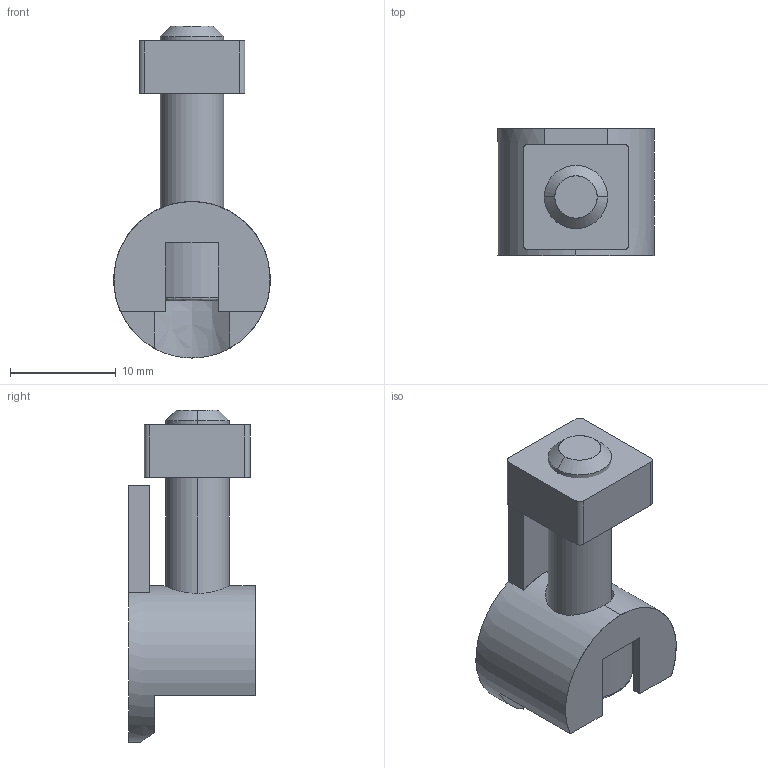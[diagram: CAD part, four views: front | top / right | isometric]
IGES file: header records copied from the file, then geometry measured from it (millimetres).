
Start section: SolidWorks IGES file using analytic representation for surfaces
Global section: file name: C:\Users\admin\Desktop\IGES\J3F.igs; native system: SolidWorks 2014; preprocessor: SolidWorks 2014; author: admin_pc; date: 170524.165858; units: millimetre
Bounding box: 14.79 x 12 x 31.4 mm (x, y, z)
Surface area: 2397.7 mm2 (no closed solid volume)
Topology: 0 solids, 0 shells, 57 faces, 725 edges, 723 vertices
Faces by surface type: bspline 37, revolution 20
